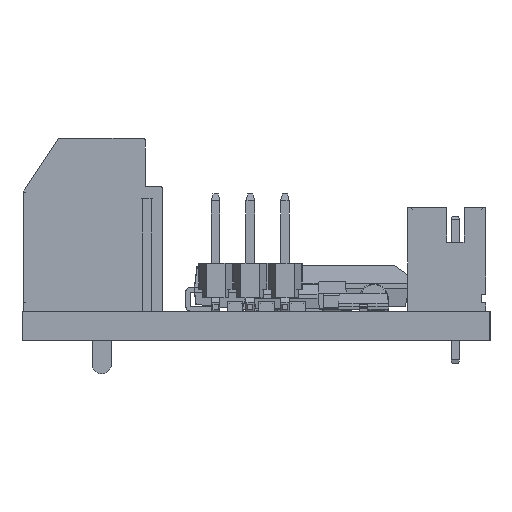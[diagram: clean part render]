
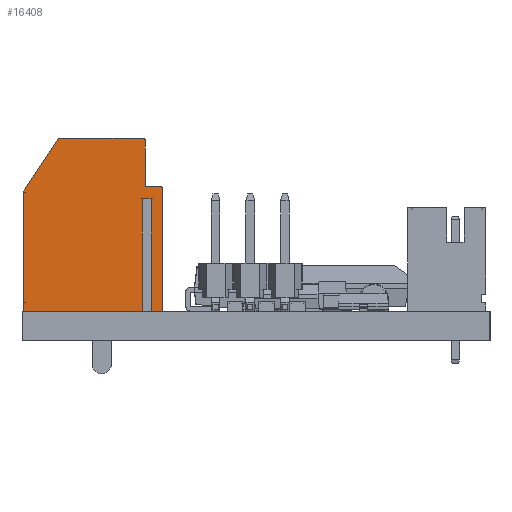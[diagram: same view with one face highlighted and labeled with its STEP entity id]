
A CAD part, left-side view. The second image highlights one B-rep face of the part: STEP entity #16408.
In plain terms, the highlighted planar face has unit normal (-1, 0, 0) as drawn and (1, 0, 0) by its records, which use the part's own axes.
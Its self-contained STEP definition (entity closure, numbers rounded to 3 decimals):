
#15603 = EDGE_CURVE('',#15604,#15606,#15608,.T.);
#15604 = VERTEX_POINT('',#15605);
#15605 = CARTESIAN_POINT('',(5.,6.95,4.5));
#15606 = VERTEX_POINT('',#15607);
#15607 = CARTESIAN_POINT('',(5.,0.,4.5));
#15608 = LINE('',#15609,#15610);
#15609 = CARTESIAN_POINT('',(5.,7.2,4.5));
#15610 = VECTOR('',#15611,1.);
#15611 = DIRECTION('',(0.,-1.,0.));
#15781 = EDGE_CURVE('',#15782,#15784,#15786,.T.);
#15782 = VERTEX_POINT('',#15783);
#15783 = CARTESIAN_POINT('',(5.,0.,-2.85));
#15784 = VERTEX_POINT('',#15785);
#15785 = CARTESIAN_POINT('',(5.,0.,-3.5));
#15786 = LINE('',#15787,#15788);
#15787 = CARTESIAN_POINT('',(5.,0.,-3.5));
#15788 = VECTOR('',#15789,1.);
#15789 = DIRECTION('',(0.,0.,-1.));
#15808 = VERTEX_POINT('',#15809);
#15809 = CARTESIAN_POINT('',(5.,0.,-2.35));
#15815 = EDGE_CURVE('',#15606,#15808,#15816,.T.);
#15816 = LINE('',#15817,#15818);
#15817 = CARTESIAN_POINT('',(5.,0.,-3.5));
#15818 = VECTOR('',#15819,1.);
#15819 = DIRECTION('',(0.,0.,-1.));
#16408 = ADVANCED_FACE('',(#16409),#16492,.F.);
#16409 = FACE_BOUND('',#16410,.T.);
#16410 = EDGE_LOOP('',(#16411,#16421,#16430,#16438,#16444,#16445,#16446,
    #16454,#16462,#16468,#16469,#16477,#16486));
#16411 = ORIENTED_EDGE('',*,*,#16412,.F.);
#16412 = EDGE_CURVE('',#16413,#16415,#16417,.T.);
#16413 = VERTEX_POINT('',#16414);
#16414 = CARTESIAN_POINT('',(5.,9.9,-2.5));
#16415 = VERTEX_POINT('',#16416);
#16416 = CARTESIAN_POINT('',(5.,7.2,-2.5));
#16417 = LINE('',#16418,#16419);
#16418 = CARTESIAN_POINT('',(5.,10.,-2.5));
#16419 = VECTOR('',#16420,1.);
#16420 = DIRECTION('',(0.,-1.,0.));
#16421 = ORIENTED_EDGE('',*,*,#16422,.T.);
#16422 = EDGE_CURVE('',#16413,#16423,#16425,.T.);
#16423 = VERTEX_POINT('',#16424);
#16424 = CARTESIAN_POINT('',(5.,10.,-2.4));
#16425 = CIRCLE('',#16426,0.1);
#16426 = AXIS2_PLACEMENT_3D('',#16427,#16428,#16429);
#16427 = CARTESIAN_POINT('',(5.,9.9,-2.4));
#16428 = DIRECTION('',(1.,0.,0.));
#16429 = DIRECTION('',(0.,0.,1.));
#16430 = ORIENTED_EDGE('',*,*,#16431,.F.);
#16431 = EDGE_CURVE('',#16432,#16423,#16434,.T.);
#16432 = VERTEX_POINT('',#16433);
#16433 = CARTESIAN_POINT('',(5.,10.,2.5));
#16434 = LINE('',#16435,#16436);
#16435 = CARTESIAN_POINT('',(5.,10.,4.5));
#16436 = VECTOR('',#16437,1.);
#16437 = DIRECTION('',(0.,0.,-1.));
#16438 = ORIENTED_EDGE('',*,*,#16439,.T.);
#16439 = EDGE_CURVE('',#16432,#15604,#16440,.T.);
#16440 = LINE('',#16441,#16442);
#16441 = CARTESIAN_POINT('',(5.,10.,2.5));
#16442 = VECTOR('',#16443,1.);
#16443 = DIRECTION('',(0.,-0.836,0.548
    ));
#16444 = ORIENTED_EDGE('',*,*,#15603,.T.);
#16445 = ORIENTED_EDGE('',*,*,#15815,.T.);
#16446 = ORIENTED_EDGE('',*,*,#16447,.F.);
#16447 = EDGE_CURVE('',#16448,#15808,#16450,.T.);
#16448 = VERTEX_POINT('',#16449);
#16449 = CARTESIAN_POINT('',(5.,6.5,-2.35));
#16450 = LINE('',#16451,#16452);
#16451 = CARTESIAN_POINT('',(5.,6.5,-2.35));
#16452 = VECTOR('',#16453,1.);
#16453 = DIRECTION('',(0.,-1.,0.));
#16454 = ORIENTED_EDGE('',*,*,#16455,.F.);
#16455 = EDGE_CURVE('',#16456,#16448,#16458,.T.);
#16456 = VERTEX_POINT('',#16457);
#16457 = CARTESIAN_POINT('',(5.,6.5,-2.85));
#16458 = LINE('',#16459,#16460);
#16459 = CARTESIAN_POINT('',(5.,6.5,-2.35));
#16460 = VECTOR('',#16461,1.);
#16461 = DIRECTION('',(0.,0.,1.));
#16462 = ORIENTED_EDGE('',*,*,#16463,.T.);
#16463 = EDGE_CURVE('',#16456,#15782,#16464,.T.);
#16464 = LINE('',#16465,#16466);
#16465 = CARTESIAN_POINT('',(5.,6.5,-2.85));
#16466 = VECTOR('',#16467,1.);
#16467 = DIRECTION('',(0.,-1.,0.));
#16468 = ORIENTED_EDGE('',*,*,#15781,.T.);
#16469 = ORIENTED_EDGE('',*,*,#16470,.F.);
#16470 = EDGE_CURVE('',#16471,#15784,#16473,.T.);
#16471 = VERTEX_POINT('',#16472);
#16472 = CARTESIAN_POINT('',(5.,7.1,-3.5));
#16473 = LINE('',#16474,#16475);
#16474 = CARTESIAN_POINT('',(5.,7.2,-3.5));
#16475 = VECTOR('',#16476,1.);
#16476 = DIRECTION('',(0.,-1.,0.));
#16477 = ORIENTED_EDGE('',*,*,#16478,.T.);
#16478 = EDGE_CURVE('',#16471,#16479,#16481,.T.);
#16479 = VERTEX_POINT('',#16480);
#16480 = CARTESIAN_POINT('',(5.,7.2,-3.4));
#16481 = CIRCLE('',#16482,0.1);
#16482 = AXIS2_PLACEMENT_3D('',#16483,#16484,#16485);
#16483 = CARTESIAN_POINT('',(5.,7.1,-3.4));
#16484 = DIRECTION('',(1.,0.,0.));
#16485 = DIRECTION('',(0.,0.,1.));
#16486 = ORIENTED_EDGE('',*,*,#16487,.F.);
#16487 = EDGE_CURVE('',#16415,#16479,#16488,.T.);
#16488 = LINE('',#16489,#16490);
#16489 = CARTESIAN_POINT('',(5.,7.2,-3.5));
#16490 = VECTOR('',#16491,1.);
#16491 = DIRECTION('',(0.,0.,-1.));
#16492 = PLANE('',#16493);
#16493 = AXIS2_PLACEMENT_3D('',#16494,#16495,#16496);
#16494 = CARTESIAN_POINT('',(5.,7.2,-3.5));
#16495 = DIRECTION('',(-1.,0.,0.));
#16496 = DIRECTION('',(0.,0.,1.));
